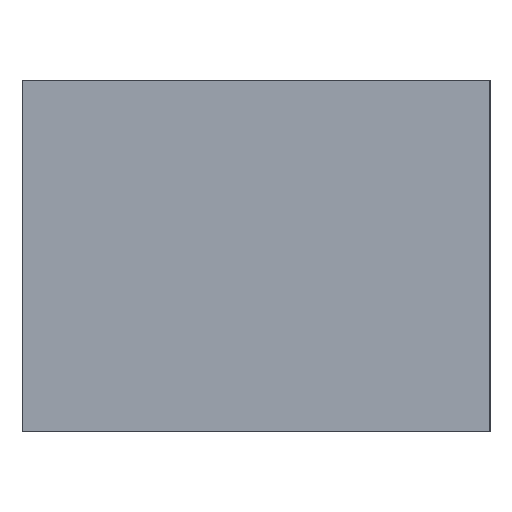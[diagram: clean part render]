
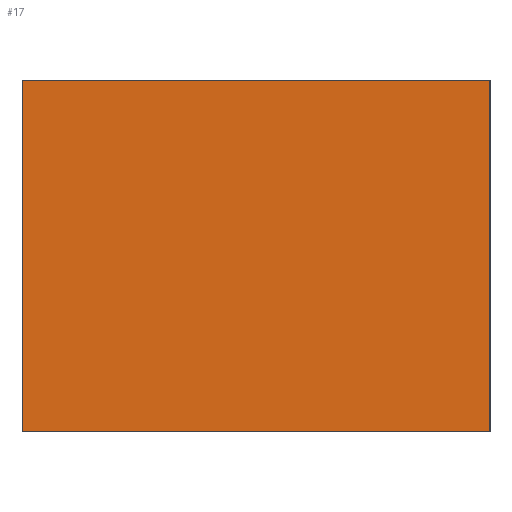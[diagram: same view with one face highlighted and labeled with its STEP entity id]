
A CAD part, left-side view. The second image highlights one B-rep face of the part: STEP entity #17.
In plain terms, the highlighted planar face has unit normal (-1, 0, 0).
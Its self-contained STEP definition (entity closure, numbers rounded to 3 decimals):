
#17 = ADVANCED_FACE('',(#18),#32,.F.);
#18 = FACE_BOUND('',#19,.F.);
#19 = EDGE_LOOP('',(#20,#55,#83,#111));
#20 = ORIENTED_EDGE('',*,*,#21,.F.);
#21 = EDGE_CURVE('',#22,#24,#26,.T.);
#22 = VERTEX_POINT('',#23);
#23 = CARTESIAN_POINT('',(-4.5,64.,19.1));
#24 = VERTEX_POINT('',#25);
#25 = CARTESIAN_POINT('',(-4.5,64.,20.6));
#26 = SURFACE_CURVE('',#27,(#31,#43),.PCURVE_S1.);
#27 = LINE('',#28,#29);
#28 = CARTESIAN_POINT('',(-4.5,64.,19.1));
#29 = VECTOR('',#30,1.);
#30 = DIRECTION('',(0.,0.,1.));
#31 = PCURVE('',#32,#37);
#32 = PLANE('',#33);
#33 = AXIS2_PLACEMENT_3D('',#34,#35,#36);
#34 = CARTESIAN_POINT('',(-4.5,64.,19.1));
#35 = DIRECTION('',(1.,0.,0.));
#36 = DIRECTION('',(0.,0.,1.));
#37 = DEFINITIONAL_REPRESENTATION('',(#38),#42);
#38 = LINE('',#39,#40);
#39 = CARTESIAN_POINT('',(0.,0.));
#40 = VECTOR('',#41,1.);
#41 = DIRECTION('',(1.,0.));
#42 = ( GEOMETRIC_REPRESENTATION_CONTEXT(2) 
PARAMETRIC_REPRESENTATION_CONTEXT() REPRESENTATION_CONTEXT('2D SPACE',''
  ) );
#43 = PCURVE('',#44,#49);
#44 = PLANE('',#45);
#45 = AXIS2_PLACEMENT_3D('',#46,#47,#48);
#46 = CARTESIAN_POINT('',(-4.5,64.,19.1));
#47 = DIRECTION('',(0.,1.,0.));
#48 = DIRECTION('',(0.,0.,1.));
#49 = DEFINITIONAL_REPRESENTATION('',(#50),#54);
#50 = LINE('',#51,#52);
#51 = CARTESIAN_POINT('',(0.,0.));
#52 = VECTOR('',#53,1.);
#53 = DIRECTION('',(1.,0.));
#54 = ( GEOMETRIC_REPRESENTATION_CONTEXT(2) 
PARAMETRIC_REPRESENTATION_CONTEXT() REPRESENTATION_CONTEXT('2D SPACE',''
  ) );
#55 = ORIENTED_EDGE('',*,*,#56,.T.);
#56 = EDGE_CURVE('',#22,#57,#59,.T.);
#57 = VERTEX_POINT('',#58);
#58 = CARTESIAN_POINT('',(-4.5,66.,19.1));
#59 = SURFACE_CURVE('',#60,(#64,#71),.PCURVE_S1.);
#60 = LINE('',#61,#62);
#61 = CARTESIAN_POINT('',(-4.5,64.,19.1));
#62 = VECTOR('',#63,1.);
#63 = DIRECTION('',(0.,1.,0.));
#64 = PCURVE('',#32,#65);
#65 = DEFINITIONAL_REPRESENTATION('',(#66),#70);
#66 = LINE('',#67,#68);
#67 = CARTESIAN_POINT('',(0.,0.));
#68 = VECTOR('',#69,1.);
#69 = DIRECTION('',(0.,-1.));
#70 = ( GEOMETRIC_REPRESENTATION_CONTEXT(2) 
PARAMETRIC_REPRESENTATION_CONTEXT() REPRESENTATION_CONTEXT('2D SPACE',''
  ) );
#71 = PCURVE('',#72,#77);
#72 = PLANE('',#73);
#73 = AXIS2_PLACEMENT_3D('',#74,#75,#76);
#74 = CARTESIAN_POINT('',(-4.5,64.,19.1));
#75 = DIRECTION('',(0.,0.,1.));
#76 = DIRECTION('',(1.,0.,0.));
#77 = DEFINITIONAL_REPRESENTATION('',(#78),#82);
#78 = LINE('',#79,#80);
#79 = CARTESIAN_POINT('',(0.,0.));
#80 = VECTOR('',#81,1.);
#81 = DIRECTION('',(0.,1.));
#82 = ( GEOMETRIC_REPRESENTATION_CONTEXT(2) 
PARAMETRIC_REPRESENTATION_CONTEXT() REPRESENTATION_CONTEXT('2D SPACE',''
  ) );
#83 = ORIENTED_EDGE('',*,*,#84,.T.);
#84 = EDGE_CURVE('',#57,#85,#87,.T.);
#85 = VERTEX_POINT('',#86);
#86 = CARTESIAN_POINT('',(-4.5,66.,20.6));
#87 = SURFACE_CURVE('',#88,(#92,#99),.PCURVE_S1.);
#88 = LINE('',#89,#90);
#89 = CARTESIAN_POINT('',(-4.5,66.,19.1));
#90 = VECTOR('',#91,1.);
#91 = DIRECTION('',(0.,0.,1.));
#92 = PCURVE('',#32,#93);
#93 = DEFINITIONAL_REPRESENTATION('',(#94),#98);
#94 = LINE('',#95,#96);
#95 = CARTESIAN_POINT('',(0.,-2.));
#96 = VECTOR('',#97,1.);
#97 = DIRECTION('',(1.,0.));
#98 = ( GEOMETRIC_REPRESENTATION_CONTEXT(2) 
PARAMETRIC_REPRESENTATION_CONTEXT() REPRESENTATION_CONTEXT('2D SPACE',''
  ) );
#99 = PCURVE('',#100,#105);
#100 = PLANE('',#101);
#101 = AXIS2_PLACEMENT_3D('',#102,#103,#104);
#102 = CARTESIAN_POINT('',(-4.5,66.,19.1));
#103 = DIRECTION('',(0.,1.,0.));
#104 = DIRECTION('',(0.,0.,1.));
#105 = DEFINITIONAL_REPRESENTATION('',(#106),#110);
#106 = LINE('',#107,#108);
#107 = CARTESIAN_POINT('',(0.,0.));
#108 = VECTOR('',#109,1.);
#109 = DIRECTION('',(1.,0.));
#110 = ( GEOMETRIC_REPRESENTATION_CONTEXT(2) 
PARAMETRIC_REPRESENTATION_CONTEXT() REPRESENTATION_CONTEXT('2D SPACE',''
  ) );
#111 = ORIENTED_EDGE('',*,*,#112,.F.);
#112 = EDGE_CURVE('',#24,#85,#113,.T.);
#113 = SURFACE_CURVE('',#114,(#118,#125),.PCURVE_S1.);
#114 = LINE('',#115,#116);
#115 = CARTESIAN_POINT('',(-4.5,64.,20.6));
#116 = VECTOR('',#117,1.);
#117 = DIRECTION('',(0.,1.,0.));
#118 = PCURVE('',#32,#119);
#119 = DEFINITIONAL_REPRESENTATION('',(#120),#124);
#120 = LINE('',#121,#122);
#121 = CARTESIAN_POINT('',(1.5,0.));
#122 = VECTOR('',#123,1.);
#123 = DIRECTION('',(0.,-1.));
#124 = ( GEOMETRIC_REPRESENTATION_CONTEXT(2) 
PARAMETRIC_REPRESENTATION_CONTEXT() REPRESENTATION_CONTEXT('2D SPACE',''
  ) );
#125 = PCURVE('',#126,#131);
#126 = PLANE('',#127);
#127 = AXIS2_PLACEMENT_3D('',#128,#129,#130);
#128 = CARTESIAN_POINT('',(-4.5,64.,20.6));
#129 = DIRECTION('',(0.,0.,1.));
#130 = DIRECTION('',(1.,0.,0.));
#131 = DEFINITIONAL_REPRESENTATION('',(#132),#136);
#132 = LINE('',#133,#134);
#133 = CARTESIAN_POINT('',(0.,0.));
#134 = VECTOR('',#135,1.);
#135 = DIRECTION('',(0.,1.));
#136 = ( GEOMETRIC_REPRESENTATION_CONTEXT(2) 
PARAMETRIC_REPRESENTATION_CONTEXT() REPRESENTATION_CONTEXT('2D SPACE',''
  ) );
